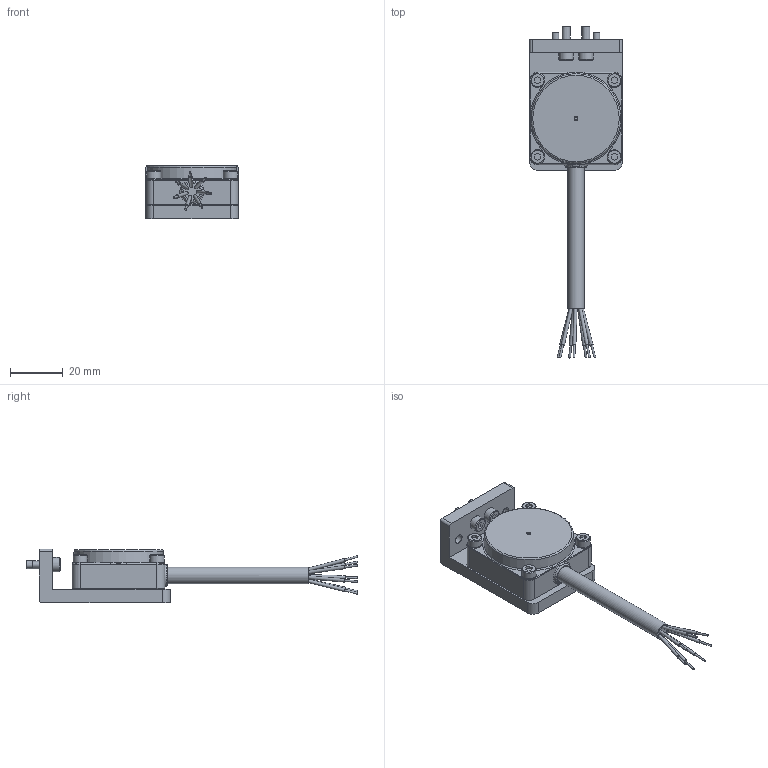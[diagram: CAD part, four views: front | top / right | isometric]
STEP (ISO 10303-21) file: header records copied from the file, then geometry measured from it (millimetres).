
FILE_DESCRIPTION(('STEP AP214'),'1');
FILE_NAME('KHF-3HS-NN4,NP4_ver1.stp','2026-04-24T01:48:30',(' '),(' '),'Spatial InterOp 3D',' ',' ');
FILE_SCHEMA(('AUTOMOTIVE_DESIGN { 1 0 10303 214 1 1 1 1 }'));
Length unit declared in the file: millimetre
Products named in the file (1): KHF-3HS-NN4,NP4_ver1
Bounding box: 35 x 125.57 x 20.2 mm (x, y, z)
Volume: 28986.3 mm3; surface area: 12762.7 mm2
Topology: 1 solids, 5 shells, 258 faces, 591 edges, 390 vertices
Faces by surface type: plane 116, cylinder 79, cone 21, torus 21, bspline 21
Full cylindrical faces by diameter (mm): 0.7 x7, 1.2 x7, 2.5 x8, 3 x4, 3.3 x4, 3.5 x4, 5 x4, 5.41 x6, 5.5 x4, 6.3 x1
Entity records: 9154 total; most frequent: CARTESIAN_POINT 1627, DIRECTION 1175, ORIENTED_EDGE 970, AXIS2_PLACEMENT_3D 488, EDGE_CURVE 485, EDGE_LOOP 397, VERTEX_POINT 358, FACE_OUTER_BOUND 311
